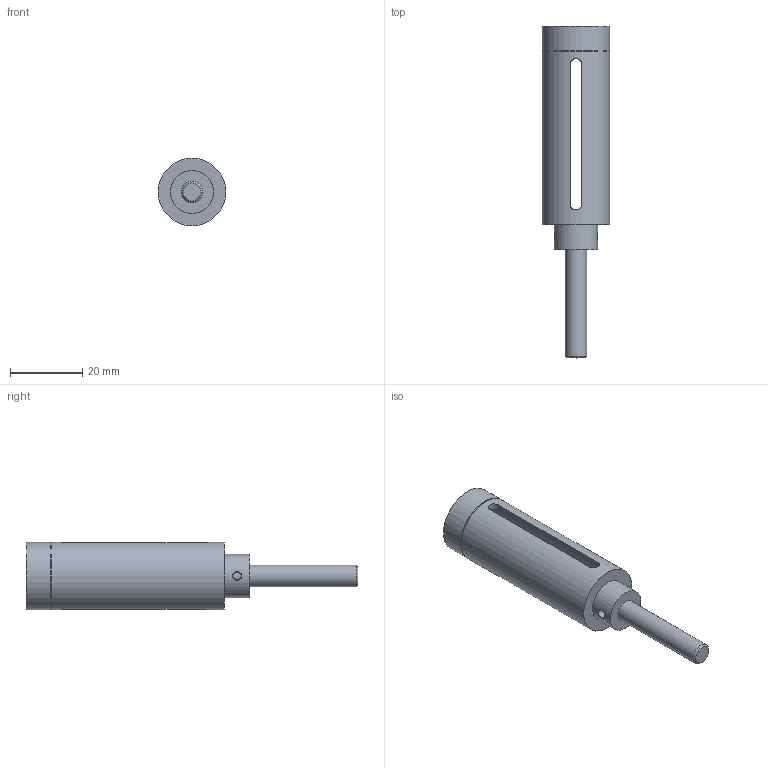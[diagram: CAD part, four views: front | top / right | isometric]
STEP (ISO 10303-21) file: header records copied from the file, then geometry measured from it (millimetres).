
FILE_DESCRIPTION(/* description */ (''),/* implementation_level */ '2;1');
FILE_NAME(/* name */ 'C:\Evgeny\Noga Works\_Noga MT Brush\solidcam\Sleeves for Face Brush D15 UF5515.stp',/* time_stamp */ '2025-03-23T09:04:01+02:00',/* author */ ('evgeny'),/* organization */ (''),/* preprocessor_version */ 'ST-DEVELOPER v20',/* originating_system */ 'Autodesk Inventor 2022',/* authorisation */ '');
FILE_SCHEMA (('AUTOMOTIVE_DESIGN { 1 0 10303 214 3 1 1 }'));
Length unit declared in the file: millimetre
Products named in the file (1): Sleeves for Face Brush D15 UF5515
Bounding box: 18.8 x 92 x 18.8 mm (x, y, z)
Volume: 6777.4 mm3; surface area: 7317.8 mm2
Topology: 2 solids, 2 shells, 29 faces, 67 edges, 42 vertices
Faces by surface type: cylinder 12, plane 10, cone 6, torus 1
Full cylindrical faces by diameter (mm): 2.459 x2, 6 x2, 12 x1, 15.2 x1, 18.8 x2
Entity records: 1160 total; most frequent: CARTESIAN_POINT 431, ORIENTED_EDGE 134, DIRECTION 134, EDGE_CURVE 67, AXIS2_PLACEMENT_3D 53, VERTEX_POINT 42, EDGE_LOOP 39, FACE_OUTER_BOUND 29
